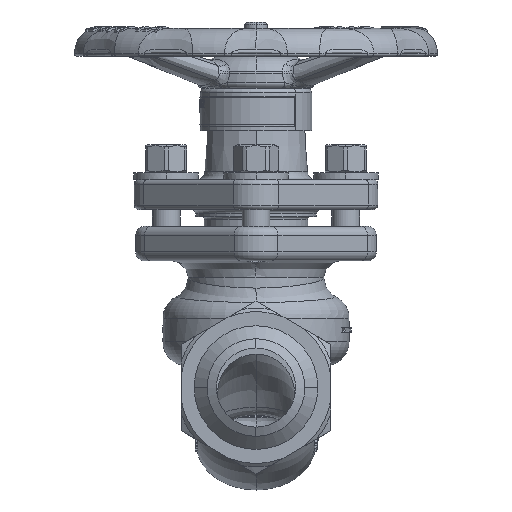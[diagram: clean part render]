
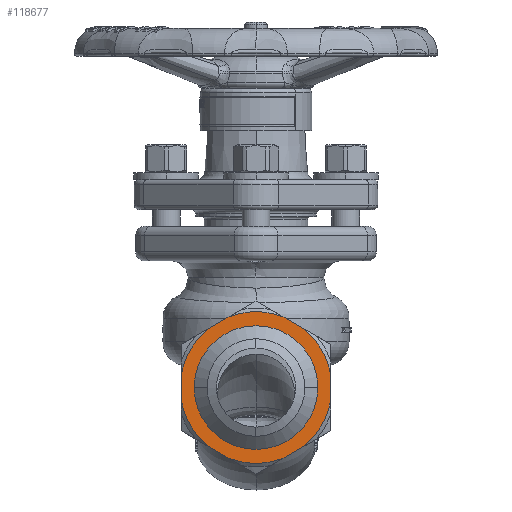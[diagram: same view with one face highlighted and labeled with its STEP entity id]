
A CAD part, left-side view. The second image highlights one B-rep face of the part: STEP entity #118677.
In plain terms, the highlighted planar face has unit normal (-1, 0, 0).
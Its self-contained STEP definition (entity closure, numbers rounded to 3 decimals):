
#32763=DIRECTION('',(0.,0.866,0.5));
#32764=VECTOR('',#32763,10.452);
#32765=CARTESIAN_POINT('',(-80.,-20.776,25.533));
#32766=LINE('',#32765,#32764);
#32771=CARTESIAN_POINT('',(-80.,0.,0.));
#32772=DIRECTION('',(-1.,0.,0.));
#32773=DIRECTION('',(0.,1.,0.));
#32774=AXIS2_PLACEMENT_3D('',#32771,#32772,#32773);
#32776=CARTESIAN_POINT('',(-80.,0.,0.));
#32777=DIRECTION('',(-1.,0.,0.));
#32778=DIRECTION('',(0.,-1.,0.));
#32779=AXIS2_PLACEMENT_3D('',#32776,#32777,#32778);
#32795=CARTESIAN_POINT('',(-80.,0.,0.));
#32796=DIRECTION('',(-1.,0.,0.));
#32797=DIRECTION('',(0.,0.356,-0.934));
#32798=AXIS2_PLACEMENT_3D('',#32795,#32796,#32797);
#32831=DIRECTION('',(0.,-0.866,0.5));
#32832=VECTOR('',#32831,10.452);
#32833=CARTESIAN_POINT('',(-80.,-11.724,-30.759));
#32834=LINE('',#32833,#32832);
#32839=CARTESIAN_POINT('',(-80.,0.,0.));
#32840=DIRECTION('',(-1.,0.,0.));
#32841=DIRECTION('',(0.,-0.631,-0.776));
#32842=AXIS2_PLACEMENT_3D('',#32839,#32840,#32841);
#32862=DIRECTION('',(0.,0.,1.));
#32863=VECTOR('',#32862,10.452);
#32864=CARTESIAN_POINT('',(-80.,-32.5,-5.226));
#32865=LINE('',#32864,#32863);
#32870=CARTESIAN_POINT('',(-80.,0.,0.));
#32871=DIRECTION('',(-1.,0.,0.));
#32872=DIRECTION('',(0.,-0.987,0.159));
#32873=AXIS2_PLACEMENT_3D('',#32870,#32871,#32872);
#33069=DIRECTION('',(0.,-0.866,-0.5));
#33070=VECTOR('',#33069,10.452);
#33071=CARTESIAN_POINT('',(-80.,20.776,-25.533));
#33072=LINE('',#33071,#33070);
#33116=DIRECTION('',(0.,0.,-1.));
#33117=VECTOR('',#33116,10.452);
#33118=CARTESIAN_POINT('',(-80.,32.5,5.226));
#33119=LINE('',#33118,#33117);
#33124=CARTESIAN_POINT('',(-80.,0.,0.));
#33125=DIRECTION('',(-1.,0.,0.));
#33126=DIRECTION('',(0.,0.987,-0.159));
#33127=AXIS2_PLACEMENT_3D('',#33124,#33125,#33126);
#33213=DIRECTION('',(0.,0.866,-0.5));
#33214=VECTOR('',#33213,10.452);
#33215=CARTESIAN_POINT('',(-80.,11.724,30.759));
#33216=LINE('',#33215,#33214);
#33221=CARTESIAN_POINT('',(-80.,0.,0.));
#33222=DIRECTION('',(-1.,0.,0.));
#33223=DIRECTION('',(0.,0.631,0.776));
#33224=AXIS2_PLACEMENT_3D('',#33221,#33222,#33223);
#33293=CARTESIAN_POINT('',(-80.,0.,0.));
#33294=DIRECTION('',(-1.,0.,0.));
#33295=DIRECTION('',(0.,-0.356,0.934));
#33296=AXIS2_PLACEMENT_3D('',#33293,#33294,#33295);
#66112=CARTESIAN_POINT('',(-80.,-20.776,-25.533));
#66113=CARTESIAN_POINT('',(-80.,-32.5,-5.226));
#66114=VERTEX_POINT('',#66112);
#66115=VERTEX_POINT('',#66113);
#66116=CARTESIAN_POINT('',(-80.,-32.5,5.226));
#66117=CARTESIAN_POINT('',(-80.,-20.776,25.533));
#66118=VERTEX_POINT('',#66116);
#66119=VERTEX_POINT('',#66117);
#66120=CARTESIAN_POINT('',(-80.,20.776,25.533));
#66121=CARTESIAN_POINT('',(-80.,32.5,5.226));
#66122=VERTEX_POINT('',#66120);
#66123=VERTEX_POINT('',#66121);
#66124=CARTESIAN_POINT('',(-80.,32.5,-5.226));
#66125=CARTESIAN_POINT('',(-80.,20.776,-25.533));
#66126=VERTEX_POINT('',#66124);
#66127=VERTEX_POINT('',#66125);
#66144=CARTESIAN_POINT('',(-80.,-11.724,-30.759));
#66145=VERTEX_POINT('',#66144);
#66148=CARTESIAN_POINT('',(-80.,-11.724,30.759));
#66149=VERTEX_POINT('',#66148);
#66152=CARTESIAN_POINT('',(-80.,11.724,30.759));
#66153=VERTEX_POINT('',#66152);
#66156=CARTESIAN_POINT('',(-80.,11.724,-30.759));
#66157=VERTEX_POINT('',#66156);
#66695=CARTESIAN_POINT('',(-80.,26.857,0.));
#66696=CARTESIAN_POINT('',(-80.,-26.857,0.));
#66697=VERTEX_POINT('',#66695);
#66698=VERTEX_POINT('',#66696);
#118641=CARTESIAN_POINT('',(-80.,0.,0.));
#118642=DIRECTION('',(-1.,0.,0.));
#118643=DIRECTION('',(0.,0.,1.));
#118644=AXIS2_PLACEMENT_3D('',#118641,#118642,#118643);
#118645=PLANE('',#118644);
#118647=ORIENTED_EDGE('',*,*,#118646,.F.);
#118649=ORIENTED_EDGE('',*,*,#118648,.F.);
#118651=ORIENTED_EDGE('',*,*,#118650,.F.);
#118653=ORIENTED_EDGE('',*,*,#118652,.F.);
#118655=ORIENTED_EDGE('',*,*,#118654,.F.);
#118657=ORIENTED_EDGE('',*,*,#118656,.F.);
#118659=ORIENTED_EDGE('',*,*,#118658,.F.);
#118660=ORIENTED_EDGE('',*,*,#118620,.F.);
#118662=ORIENTED_EDGE('',*,*,#118661,.F.);
#118664=ORIENTED_EDGE('',*,*,#118663,.F.);
#118666=ORIENTED_EDGE('',*,*,#118665,.F.);
#118668=ORIENTED_EDGE('',*,*,#118667,.F.);
#118669=EDGE_LOOP('',(#118647,#118649,#118651,#118653,#118655,#118657,#118659,
#118660,#118662,#118664,#118666,#118668));
#118670=FACE_OUTER_BOUND('',#118669,.F.);
#118672=ORIENTED_EDGE('',*,*,#118671,.T.);
#118674=ORIENTED_EDGE('',*,*,#118673,.T.);
#118675=EDGE_LOOP('',(#118672,#118674));
#118676=FACE_BOUND('',#118675,.F.);
#118677=ADVANCED_FACE('',(#118670,#118676),#118645,.T.);
#32775=CIRCLE('',#32774,26.857);
#32780=CIRCLE('',#32779,26.857);
#32799=CIRCLE('',#32798,32.918);
#32843=CIRCLE('',#32842,32.918);
#32874=CIRCLE('',#32873,32.918);
#33128=CIRCLE('',#33127,32.918);
#33225=CIRCLE('',#33224,32.918);
#33297=CIRCLE('',#33296,32.918);
#118620=EDGE_CURVE('',#66119,#66149,#32766,.T.);
#118646=EDGE_CURVE('',#66157,#66145,#32799,.T.);
#118648=EDGE_CURVE('',#66127,#66157,#33072,.T.);
#118650=EDGE_CURVE('',#66126,#66127,#33128,.T.);
#118652=EDGE_CURVE('',#66123,#66126,#33119,.T.);
#118654=EDGE_CURVE('',#66122,#66123,#33225,.T.);
#118656=EDGE_CURVE('',#66153,#66122,#33216,.T.);
#118658=EDGE_CURVE('',#66149,#66153,#33297,.T.);
#118661=EDGE_CURVE('',#66118,#66119,#32874,.T.);
#118663=EDGE_CURVE('',#66115,#66118,#32865,.T.);
#118665=EDGE_CURVE('',#66114,#66115,#32843,.T.);
#118667=EDGE_CURVE('',#66145,#66114,#32834,.T.);
#118671=EDGE_CURVE('',#66697,#66698,#32775,.T.);
#118673=EDGE_CURVE('',#66698,#66697,#32780,.T.);
